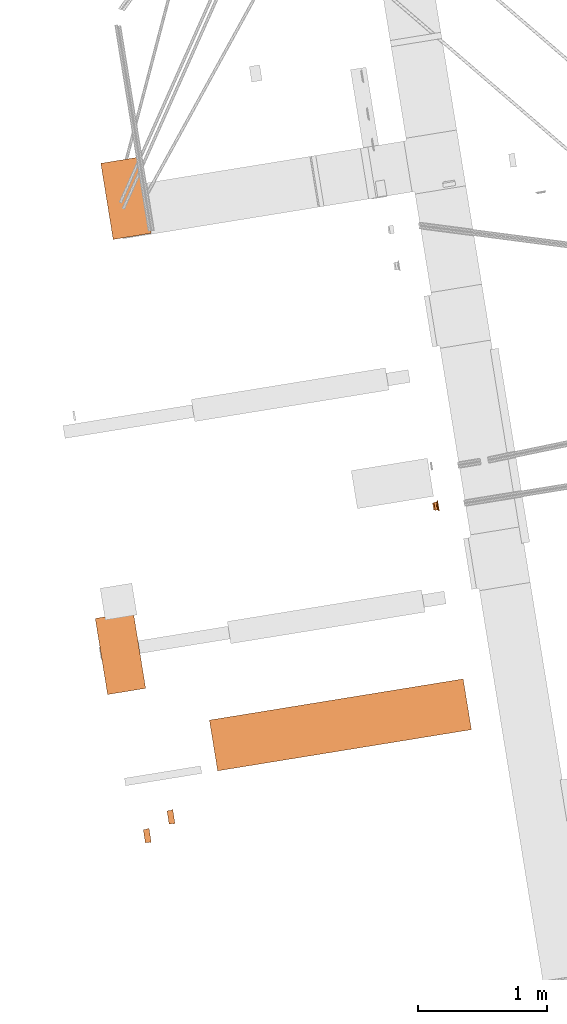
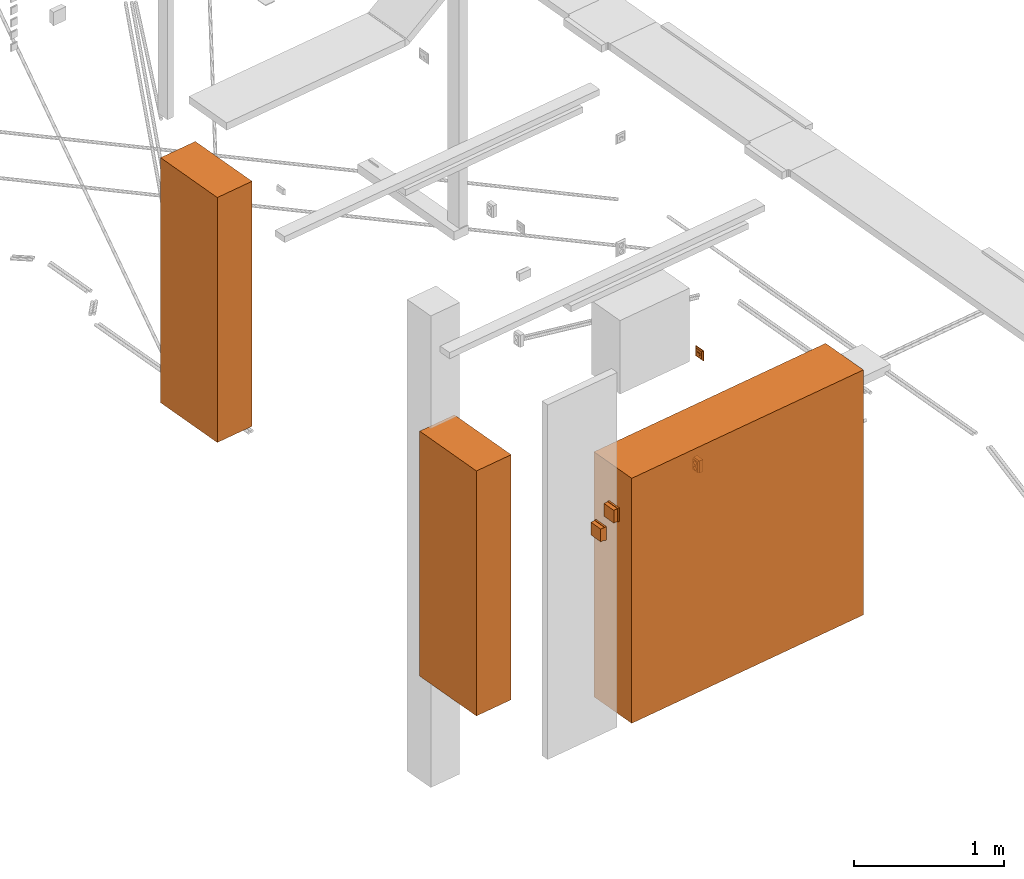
# One storey, part 9 of 33: 7 proxies.
"""IFC2X3 building model written with IfcOpenShell, lengths in millimetres."""

from ifc_helpers import new_model, entity, si_unit, converted_unit, derived_unit, direction, frame, frame_2d, origin, origin_with_axes, origin_2d_with_axis, place, context, subcontext, project, spatial, polyline, circle_curve, parameter, trimmed, segment, composite_curve, rectangle, circle, hollow_circle, outline, extrude, source, transform, mapped, material, type_object, element, save


model = new_model("IFC2X3")

# Units and contexts
plan_context = context("Plan", 3, precision=1e-05, world=origin_with_axes())
model_context = context("Model", 3, precision=0.01, world=origin(), true_north=direction((6.12323399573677e-17, 1.0)))
body_context = subcontext(model_context, "Body", "Model", "MODEL_VIEW")
ifc_project = project(units=[converted_unit("PLANEANGLEUNIT", "DEGREE", entity("IfcPositiveLengthMeasure", 0.0174532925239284), si_unit("PLANEANGLEUNIT", "RADIAN"), dimensions=[0, 0, 0, 0, 0, 0, 0]), si_unit("AREAUNIT", "SQUARE_METRE"), si_unit("LENGTHUNIT", "METRE", prefix="MILLI"), si_unit("MASSUNIT", "GRAM", prefix="KILO"), si_unit("POWERUNIT", "WATT"), si_unit("PRESSUREUNIT", "PASCAL", prefix="KILO"), si_unit("FORCEUNIT", "NEWTON", prefix="KILO"), si_unit("ELECTRICVOLTAGEUNIT", "VOLT"), si_unit("ELECTRICCURRENTUNIT", "AMPERE"), si_unit("THERMODYNAMICTEMPERATUREUNIT", "DEGREE_CELSIUS"), si_unit("TIMEUNIT", "SECOND"), si_unit("VOLUMEUNIT", "CUBIC_METRE"), derived_unit("LINEARVELOCITYUNIT", [(si_unit("LENGTHUNIT", "METRE"), 1), (si_unit("TIMEUNIT", "SECOND"), -1)]), derived_unit("VOLUMETRICFLOWRATEUNIT", [(si_unit("VOLUMEUNIT", "CUBIC_METRE"), 1), (si_unit("TIMEUNIT", "SECOND"), -1)]), derived_unit("THERMALTRANSMITTANCEUNIT", [(si_unit("POWERUNIT", "WATT"), 1), (si_unit("THERMODYNAMICTEMPERATUREUNIT", "KELVIN"), -1), (si_unit("AREAUNIT", "SQUARE_METRE"), -1)]), derived_unit("SOUNDPRESSUREUNIT", [(si_unit("PRESSUREUNIT", "PASCAL"), 1)])], contexts=[model_context, plan_context])

# Site, building, storey
site_placement = place(None, frame((-0.219946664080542, 0.12226179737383, 0.0), z_axis=(0.0, 0.0, 1.0), x_axis=(-0.160236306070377, 0.987078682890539, 0.0)))
site = spatial("IfcSite", under=ifc_project, at=site_placement, Name="Default", CompositionType="ELEMENT")
building_placement = place(site_placement, origin_with_axes())
building = spatial("IfcBuilding", under=site, at=building_placement, CompositionType="ELEMENT")
storey_placement = place(building_placement, frame((0.0, 0.0, 59000.0), z_axis=(0.0, 0.0, 1.0), x_axis=(1.0, 0.0, 0.0)))
storey = spatial("IfcBuildingStorey", under=building, at=storey_placement, Name="Nivå F", CompositionType="ELEMENT", Elevation=59000.0)

# Proxies
ifc_material = material(Name="<Unnamed>")
building_element_proxy_type_1 = type_object("IfcBuildingElementProxyType", Name="El-ford-Skap:El-ford-Skap_001", PredefinedType="NOTDEFINED", material=ifc_material)
shared_shape_1 = source(origin(), body_context, "Body", "SweptSolid", [
    extrude(rectangle(XDim=400.0, YDim=2000.0, at=origin_2d_with_axis()), frame((0.0, 200.0, 0.0), z_axis=(0.0, 0.0, 1.0), x_axis=(0.0, 1.0, 0.0)), (0.0, 0.0, 1.0), 2000.0),
])
proxy_1_placement = place(storey_placement, frame((767204.369644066, -502802.476367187, -70.0000000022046), z_axis=(0.0, 0.0, 1.0), x_axis=(0.0, 1.0, 0.0)))
element("IfcBuildingElementProxy", 1, at=proxy_1_placement, inside=storey, type_object=building_element_proxy_type_1, material=ifc_material, Name="El-ford-Skap:=433.PF111", ObjectType="El-ford-Skap:El-ford-Skap_001", context=body_context, shape_type="MappedRepresentation", body=[
    mapped(shared_shape_1, transform((0.0, 0.0, 0.0), scale=1.0)),
])
building_element_proxy_type_2 = type_object("IfcBuildingElementProxyType", Name="El-ford-stativ:El-ford-stativ_001", PredefinedType="NOTDEFINED", material=ifc_material)
shared_shape_2 = source(origin(), body_context, "Body", "SweptSolid", [
    extrude(rectangle(XDim=300.000011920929, YDim=600.000023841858, at=origin_2d_with_axis()), frame((0.0, 150.000005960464, 0.0), z_axis=(0.0, 0.0, 1.0), x_axis=(0.0, 1.0, 0.0)), (0.0, 0.0, 1.0), 2000.0),
])
proxy_2_placement = place(storey_placement, frame((767827.625402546, -501352.46749239, -70.0000000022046), z_axis=(0.0, 0.0, 1.0), x_axis=(1.0, 0.0, 0.0)))
element("IfcBuildingElementProxy", 2, at=proxy_2_placement, inside=storey, type_object=building_element_proxy_type_2, material=ifc_material, Name="El-ford-stativ:El-ford-stativ_001", ObjectType="El-ford-stativ:El-ford-stativ_001", context=body_context, shape_type="MappedRepresentation", body=[
    mapped(shared_shape_2, transform((0.0, 0.0, 0.0), scale=1.0)),
])
building_element_proxy_type_3 = type_object("IfcBuildingElementProxyType", Name="Dobbel stikk på vegg 2P+J vert PH:EARTHED-SOCKET-2(VER)", PredefinedType="NOTDEFINED", material=ifc_material)
shared_shape_3 = source(origin(), body_context, "Body", "SweptSolid", [
    extrude(outline(composite_curve([segment(polyline([(-6.66666666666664, -6.66666666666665), (13.3333333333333, -6.66666666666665)]), True, "CONTINUOUS"), segment(trimmed(circle_curve(frame_2d((13.3333333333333, 13.3333333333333), x_axis=(-1.0, 0.0)), 20.0), [parameter(360.0)], [parameter(90.0)], True, "PARAMETER"), False, "CONTINUOUS"), segment(polyline([(-6.66666666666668, 13.3333333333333), (-6.66666666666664, -6.66666666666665)]), True, "CONTINUOUS")], self_intersect=False)), frame((13.3333333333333, 42.8999999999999, 8.65666666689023), z_axis=(0.0, 1.0, 0.0), x_axis=(-1.0, 0.0, 0.0)), (0.0, 0.0, 1.0), 0.199999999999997),
    extrude(outline(composite_curve([segment(polyline([(-6.66666666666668, -6.66666666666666), (13.3333333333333, -6.66666666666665)]), True, "CONTINUOUS"), segment(trimmed(circle_curve(frame_2d((13.3333333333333, 13.3333333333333), x_axis=(0.0, -1.0)), 20.0), [parameter(270.0)], [parameter(0.0)], True, "PARAMETER"), False, "CONTINUOUS"), segment(polyline([(-6.66666666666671, 13.3333333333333), (-6.66666666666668, -6.66666666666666)]), True, "CONTINUOUS")], self_intersect=False)), frame((13.3333333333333, 42.8999999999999, 35.3333333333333), z_axis=(0.0, 1.0, 0.0), x_axis=(0.0, 0.0, -1.0)), (0.0, 0.0, 1.0), 0.199999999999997),
    extrude(outline(composite_curve([segment(polyline([(-6.66666666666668, -6.66666666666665), (13.3333333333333, -6.66666666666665)]), True, "CONTINUOUS"), segment(trimmed(circle_curve(frame_2d((13.3333333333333, 13.3333333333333), x_axis=(-1.0, 0.0)), 20.0), [parameter(0.0)], [parameter(90.0)], True, "PARAMETER"), False, "CONTINUOUS"), segment(polyline([(-6.66666666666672, 13.3333333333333), (-6.66666666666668, -6.66666666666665)]), True, "CONTINUOUS")], self_intersect=False)), frame((-13.3333333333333, 42.8999999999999, 35.3433333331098), z_axis=(0.0, 1.0, 0.0), x_axis=(1.0, 0.0, 0.0)), (0.0, 0.0, 1.0), 0.199999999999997),
    extrude(outline(composite_curve([segment(polyline([(-6.66666666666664, -6.66666666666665), (13.3333333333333, -6.66666666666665)]), True, "CONTINUOUS"), segment(trimmed(circle_curve(frame_2d((13.3333333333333, 13.3333333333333), x_axis=(0.0, -1.0)), 20.0), [parameter(270.0)], [parameter(0.0)], True, "PARAMETER"), False, "CONTINUOUS"), segment(polyline([(-6.66666666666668, 13.3333333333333), (-6.66666666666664, -6.66666666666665)]), True, "CONTINUOUS")], self_intersect=False)), frame((-13.3333333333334, 42.8999999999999, 8.66666666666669), z_axis=(0.0, 1.0, 0.0), x_axis=(0.0, 0.0, 1.0)), (0.0, 0.0, 1.0), 0.199999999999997),
    extrude(outline(composite_curve([segment(polyline([(-6.66666666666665, -6.66666666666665), (13.3333333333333, -6.66666666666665)]), True, "CONTINUOUS"), segment(trimmed(circle_curve(frame_2d((13.3333333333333, 13.3333333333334), x_axis=(-1.0, 0.0)), 20.0), [parameter(360.0)], [parameter(90.0)], True, "PARAMETER"), False, "CONTINUOUS"), segment(polyline([(-6.66666666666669, 13.3333333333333), (-6.66666666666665, -6.66666666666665)]), True, "CONTINUOUS")], self_intersect=False)), frame((13.3333333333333, 42.8999999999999, -35.3433333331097), z_axis=(0.0, 1.0, 0.0), x_axis=(-1.0, 0.0, 0.0)), (0.0, 0.0, 1.0), 0.199999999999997),
    extrude(outline(composite_curve([segment(polyline([(-6.66666666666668, -6.66666666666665), (13.3333333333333, -6.66666666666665)]), True, "CONTINUOUS"), segment(trimmed(circle_curve(frame_2d((13.3333333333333, 13.3333333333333), x_axis=(0.0, -1.0)), 20.0), [parameter(270.0)], [parameter(0.0)], True, "PARAMETER"), False, "CONTINUOUS"), segment(polyline([(-6.66666666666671, 13.3333333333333), (-6.66666666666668, -6.66666666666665)]), True, "CONTINUOUS")], self_intersect=False)), frame((13.3333333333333, 42.8999999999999, -8.66666666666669), z_axis=(0.0, 1.0, 0.0), x_axis=(0.0, 0.0, -1.0)), (0.0, 0.0, 1.0), 0.199999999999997),
    extrude(outline(composite_curve([segment(polyline([(-6.66666666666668, -6.66666666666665), (13.3333333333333, -6.66666666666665)]), True, "CONTINUOUS"), segment(trimmed(circle_curve(frame_2d((13.3333333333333, 13.3333333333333), x_axis=(-1.0, 0.0)), 20.0), [parameter(0.0)], [parameter(90.0)], True, "PARAMETER"), False, "CONTINUOUS"), segment(polyline([(-6.66666666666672, 13.3333333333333), (-6.66666666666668, -6.66666666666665)]), True, "CONTINUOUS")], self_intersect=False)), frame((-13.3333333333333, 42.8999999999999, -8.65666666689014), z_axis=(0.0, 1.0, 0.0), x_axis=(1.0, 0.0, 0.0)), (0.0, 0.0, 1.0), 0.199999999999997),
    extrude(outline(composite_curve([segment(polyline([(-6.66666666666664, -6.66666666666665), (13.3333333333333, -6.66666666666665)]), True, "CONTINUOUS"), segment(trimmed(circle_curve(frame_2d((13.3333333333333, 13.3333333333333), x_axis=(0.0, -1.0)), 20.0), [parameter(270.0)], [parameter(0.0)], True, "PARAMETER"), False, "CONTINUOUS"), segment(polyline([(-6.66666666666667, 13.3333333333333), (-6.66666666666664, -6.66666666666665)]), True, "CONTINUOUS")], self_intersect=False)), frame((-13.3333333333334, 42.8999999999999, -35.3333333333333), z_axis=(0.0, 1.0, 0.0), x_axis=(0.0, 0.0, 1.0)), (0.0, 0.0, 1.0), 0.199999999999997),
    extrude(rectangle(XDim=9.99999999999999, YDim=0.999999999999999, at=frame_2d((0.0, 1.11022302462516e-15), x_axis=(1.0, 0.0))), frame((0.0, 40.0, 4.4), z_axis=(0.0, 0.0, 1.0), x_axis=(0.0, -1.0, 0.0)), (0.0, 0.0, 1.0), 0.2),
    extrude(rectangle(XDim=21.5, YDim=0.999999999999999, at=frame_2d((0.0, 7.32747196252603e-15), x_axis=(1.0, 0.0))), frame((0.0, 32.25, 2.4), z_axis=(0.0, 0.0, 1.0), x_axis=(0.0, -1.0, 0.0)), (0.0, 0.0, 1.0), 0.2),
    extrude(rectangle(XDim=9.99999999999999, YDim=0.999999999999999, at=frame_2d((0.0, 1.11022302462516e-15), x_axis=(1.0, 0.0))), frame((0.0, 40.0, 39.4), z_axis=(0.0, 0.0, 1.0), x_axis=(0.0, -1.0, 0.0)), (0.0, 0.0, 1.0), 0.199999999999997),
    extrude(rectangle(XDim=21.5, YDim=0.999999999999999, at=frame_2d((0.0, 7.32747196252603e-15), x_axis=(1.0, 0.0))), frame((0.0, 32.25, 41.4), z_axis=(0.0, 0.0, 1.0), x_axis=(0.0, -1.0, 0.0)), (0.0, 0.0, 1.0), 0.199999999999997),
    extrude(rectangle(XDim=9.99999999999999, YDim=0.999999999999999, at=frame_2d((0.0, 1.11022302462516e-15), x_axis=(1.0, 0.0))), frame((0.0, 40.0, -39.6), z_axis=(0.0, 0.0, 1.0), x_axis=(0.0, -1.0, 0.0)), (0.0, 0.0, 1.0), 0.199999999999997),
    extrude(rectangle(XDim=21.5, YDim=0.999999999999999, at=frame_2d((0.0, 7.32747196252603e-15), x_axis=(1.0, 0.0))), frame((0.0, 32.25, -41.6), z_axis=(0.0, 0.0, 1.0), x_axis=(0.0, -1.0, 0.0)), (0.0, 0.0, 1.0), 0.199999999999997),
    extrude(rectangle(XDim=9.99999999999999, YDim=0.999999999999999, at=frame_2d((0.0, 1.11022302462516e-15), x_axis=(1.0, 0.0))), frame((0.0, 40.0, -4.59999999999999), z_axis=(0.0, 0.0, 1.0), x_axis=(0.0, -1.0, 0.0)), (0.0, 0.0, 1.0), 0.2),
    extrude(rectangle(XDim=21.5, YDim=0.999999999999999, at=frame_2d((0.0, 7.32747196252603e-15), x_axis=(1.0, 0.0))), frame((0.0, 32.25, -2.6), z_axis=(0.0, 0.0, 1.0), x_axis=(0.0, -1.0, 0.0)), (0.0, 0.0, 1.0), 0.2),
    extrude(rectangle(XDim=0.199999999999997, YDim=40.0, at=frame_2d((4.2257863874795e-15, 1.77635683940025e-15), x_axis=(1.0, 0.0))), frame((0.0, 43.0, 42.0), z_axis=(0.0, 0.0, 1.0), x_axis=(0.0, 1.0, 0.0)), (0.0, 0.0, 1.0), 1.99999999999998),
    extrude(rectangle(XDim=0.199999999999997, YDim=40.0, at=frame_2d((4.2257863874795e-15, 1.77635683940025e-15), x_axis=(1.0, 0.0))), frame((0.0, 43.0, 0.0), z_axis=(0.0, 0.0, 1.0), x_axis=(0.0, 1.0, 0.0)), (0.0, 0.0, 1.0), 1.99999999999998),
    extrude(rectangle(XDim=0.199999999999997, YDim=40.0, at=frame_2d((4.2257863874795e-15, 1.77635683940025e-15), x_axis=(1.0, 0.0))), frame((0.0, 43.0, -2.0), z_axis=(0.0, 0.0, 1.0), x_axis=(0.0, 1.0, 0.0)), (0.0, 0.0, 1.0), 1.99999999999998),
    extrude(rectangle(XDim=0.199999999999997, YDim=40.0, at=frame_2d((4.2257863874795e-15, 1.77635683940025e-15), x_axis=(1.0, 0.0))), frame((0.0, 43.0, -44.0), z_axis=(0.0, 0.0, 1.0), x_axis=(0.0, 1.0, 0.0)), (0.0, 0.0, 1.0), 1.99999999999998),
    extrude(rectangle(XDim=0.199999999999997, YDim=5.75, at=frame_2d((4.2257863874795e-15, 0.0), x_axis=(1.0, 0.0))), frame((-22.875, 43.0, -44.0), z_axis=(0.0, 0.0, 1.0), x_axis=(0.0, 1.0, 0.0)), (0.0, 0.0, 1.0), 87.9999999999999),
    extrude(outline(polyline([(-18.9908791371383, -25.8475629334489), (-5.60945544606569, -25.8475629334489), (16.5201031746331, 20.6554760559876), (8.0802314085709, 31.0396498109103), (-18.9908791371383, -25.8475629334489)])), frame((0.0, 37.5413802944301, -46.5910366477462), z_axis=(0.0, -0.413802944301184, 0.910366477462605), x_axis=(-0.42970016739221, 0.822035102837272, 0.373652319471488)), (0.0, 0.0, 1.0), 0.200000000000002),
    extrude(outline(polyline([(-25.75, -6.04152298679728), (25.75, -6.04152298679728), (31.5, 6.04152298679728), (-31.5, 6.04152298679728), (-25.75, -6.04152298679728)])), frame((0.0, 37.4586197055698, 46.4089633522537), z_axis=(0.0, 0.413802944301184, 0.910366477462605), x_axis=(-1.0, 0.0, 0.0)), (0.0, 0.0, 1.0), 0.200000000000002),
    extrude(rectangle(XDim=0.199999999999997, YDim=5.75, at=frame_2d((4.2257863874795e-15, 0.0), x_axis=(1.0, 0.0))), frame((22.875, 43.0, -44.0), z_axis=(0.0, 0.0, 1.0), x_axis=(0.0, 1.0, 0.0)), (0.0, 0.0, 1.0), 87.9999999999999),
    extrude(rectangle(XDim=32.0, YDim=62.9999999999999, at=frame_2d((1.77635683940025e-15, 0.0), x_axis=(1.0, 0.0))), frame((0.0, 16.0, 48.8999999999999), z_axis=(0.0, 0.0, 1.0), x_axis=(0.0, -1.0, 0.0)), (0.0, 0.0, 1.0), 0.199999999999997),
    extrude(outline(polyline([(-49.0, -6.2060957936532), (49.0, -6.2060957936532), (44.0, 6.20609579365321), (-44.0, 6.20609579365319), (-49.0, -6.2060957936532)])), frame((-28.7136225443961, 37.5463254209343, 0.0), z_axis=(0.886225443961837, -0.463254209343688, 0.0), x_axis=(0.0, 0.0, -1.0)), (0.0, 0.0, 1.0), 0.199999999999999),
    extrude(outline(polyline([(-49.0, -6.2060957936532), (49.0, -6.20609579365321), (44.0, 6.20609579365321), (-44.0, 6.20609579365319), (-49.0, -6.2060957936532)])), frame((28.5363774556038, 37.4536745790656, 0.0), z_axis=(0.886225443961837, 0.463254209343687, 0.0), x_axis=(0.0, 0.0, -1.0)), (0.0, 0.0, 1.0), 0.199999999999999),
    extrude(rectangle(XDim=32.0, YDim=62.9999999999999, at=frame_2d((1.77635683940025e-15, 0.0), x_axis=(1.0, 0.0))), frame((0.0, 16.0, -49.0999999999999), z_axis=(0.0, 0.0, 1.0), x_axis=(0.0, -1.0, 0.0)), (0.0, 0.0, 1.0), 0.199999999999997),
    extrude(rectangle(XDim=0.200000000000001, YDim=32.0, at=frame_2d((2.11636264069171e-15, 0.0), x_axis=(1.0, 0.0))), frame((31.5, 16.0, -49.0)), (0.0, 0.0, 1.0), 97.9999999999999),
    extrude(rectangle(XDim=0.200000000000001, YDim=32.0, at=frame_2d((2.11636264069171e-15, 0.0), x_axis=(1.0, 0.0))), frame((-31.5, 16.0, -49.0)), (0.0, 0.0, 1.0), 97.9999999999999),
    extrude(rectangle(XDim=0.2, YDim=62.9999999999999, at=origin_2d_with_axis()), frame((0.0, 0.0, -49.0), z_axis=(0.0, 0.0, 1.0), x_axis=(0.0, 1.0, 0.0)), (0.0, 0.0, 1.0), 97.9999999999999),
    extrude(circle(Radius=2.5, at=frame_2d((0.0, -4.22994972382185e-15), x_axis=(1.0, 0.0))), frame((10.0, 21.450000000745, 22.0), z_axis=(0.0, 1.0, 0.0), x_axis=(0.0, 0.0, 1.0)), (0.0, 0.0, 1.0), 0.200000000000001),
    extrude(circle(Radius=2.5, at=frame_2d((0.0, -4.22994972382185e-15), x_axis=(1.0, 0.0))), frame((-10.0, 21.450000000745, 22.0), z_axis=(0.0, 1.0, 0.0), x_axis=(0.0, 0.0, 1.0)), (0.0, 0.0, 1.0), 0.200000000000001),
    extrude(circle(Radius=2.5, at=frame_2d((0.0, -4.22994972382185e-15), x_axis=(1.0, 0.0))), frame((10.0, 21.450000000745, -22.0), z_axis=(0.0, 1.0, 0.0), x_axis=(0.0, 0.0, 1.0)), (0.0, 0.0, 1.0), 0.200000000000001),
    extrude(circle(Radius=2.5, at=frame_2d((0.0, -4.22994972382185e-15), x_axis=(1.0, 0.0))), frame((-10.0, 21.450000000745, -22.0), z_axis=(0.0, 1.0, 0.0), x_axis=(0.0, 0.0, 1.0)), (0.0, 0.0, 1.0), 0.200000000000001),
    extrude(circle(Radius=20.0, at=frame_2d((-4.22994972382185e-15, -3.23108914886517e-14), x_axis=(1.0, 0.0))), frame((0.0, 21.4, 22.0), z_axis=(0.0, 1.0, 0.0), x_axis=(0.0, 0.0, 1.0)), (0.0, 0.0, 1.0), 0.200000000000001),
    extrude(circle(Radius=20.0, at=frame_2d((4.22994972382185e-15, -3.23108914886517e-14), x_axis=(1.0, 0.0))), frame((0.0, 21.4, -22.0), z_axis=(0.0, 1.0, 0.0), x_axis=(0.0, 0.0, 1.0)), (0.0, 0.0, 1.0), 0.200000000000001),
    extrude(outline(composite_curve([segment(trimmed(circle_curve(frame_2d((-0.800000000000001, 0.799999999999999), x_axis=(1.0, 0.0)), 2.0), [parameter(270.0)], [parameter(0.0)], True, "PARAMETER"), True, "CONTINUOUS"), segment(polyline([(1.20000000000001, 0.799999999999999), (0.400000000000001, 0.799999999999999)]), True, "CONTINUOUS"), segment(trimmed(circle_curve(frame_2d((-0.800000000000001, 0.799999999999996), x_axis=(0.0, -1.0)), 1.2), [parameter(0.0)], [parameter(89.9999999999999)], True, "PARAMETER"), False, "CONTINUOUS"), segment(polyline([(-0.799999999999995, -0.400000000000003), (-0.799999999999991, -1.2)]), True, "CONTINUOUS")], self_intersect=False)), frame((-1.5, 43.7999999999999, 3.7), z_axis=(1.0, 0.0, 0.0), x_axis=(0.0, 1.0, 0.0)), (0.0, 0.0, 1.0), 2.0),
    extrude(outline(composite_curve([segment(polyline([(-1.2, -0.800000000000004), (-0.400000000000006, -0.800000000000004)]), True, "CONTINUOUS"), segment(trimmed(circle_curve(frame_2d((0.799999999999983, -0.799999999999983), x_axis=(-1.0, 0.0)), 1.19999999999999), [parameter(269.999999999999)], [parameter(0.0)], True, "PARAMETER"), False, "CONTINUOUS"), segment(polyline([(0.799999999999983, 0.400000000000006), (0.799999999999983, 1.2)]), True, "CONTINUOUS"), segment(trimmed(circle_curve(frame_2d((0.79999999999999, -0.79999999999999), x_axis=(0.0, 1.0)), 1.99999999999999), [parameter(0.0)], [parameter(90.0000000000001)], True, "PARAMETER"), True, "CONTINUOUS")], self_intersect=False)), frame((-0.5, 43.8, 40.2999999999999), z_axis=(1.0, 0.0, 0.0), x_axis=(0.0, 0.0, -1.0)), (0.0, 0.0, 1.0), 2.0),
    extrude(outline(composite_curve([segment(trimmed(circle_curve(frame_2d((-0.799999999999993, 0.800000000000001), x_axis=(1.0, 0.0)), 1.99999999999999), [parameter(270.0)], [parameter(0.0)], True, "PARAMETER"), True, "CONTINUOUS"), segment(polyline([(1.2, 0.800000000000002), (0.400000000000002, 0.799999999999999)]), True, "CONTINUOUS"), segment(trimmed(circle_curve(frame_2d((-0.799999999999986, 0.799999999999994), x_axis=(0.0, -1.0)), 1.19999999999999), [parameter(0.0)], [parameter(90.0000000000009)], True, "PARAMETER"), False, "CONTINUOUS"), segment(polyline([(-0.800000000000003, -0.399999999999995), (-0.799999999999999, -1.19999999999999)]), True, "CONTINUOUS")], self_intersect=False)), frame((-1.5, 43.8, -40.3), z_axis=(1.0, 0.0, 0.0), x_axis=(0.0, 1.0, 0.0)), (0.0, 0.0, 1.0), 2.0),
    extrude(outline(composite_curve([segment(polyline([(-1.2, -0.800000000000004), (-0.399999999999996, -0.800000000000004)]), True, "CONTINUOUS"), segment(trimmed(circle_curve(frame_2d((0.800000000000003, -0.800000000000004), x_axis=(-1.0, 0.0)), 1.2), [parameter(270.0)], [parameter(0.0)], True, "PARAMETER"), False, "CONTINUOUS"), segment(polyline([(0.799999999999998, 0.399999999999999), (0.799999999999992, 1.2)]), True, "CONTINUOUS"), segment(trimmed(circle_curve(frame_2d((0.800000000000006, -0.800000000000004), x_axis=(0.0, 1.0)), 2.0), [parameter(0.0)], [parameter(89.9999999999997)], True, "PARAMETER"), True, "CONTINUOUS")], self_intersect=False)), frame((-0.5, 43.8, -3.7), z_axis=(1.0, 0.0, 0.0), x_axis=(0.0, 0.0, -1.0)), (0.0, 0.0, 1.0), 2.0),
    extrude(hollow_circle(Radius=20.0, WallThickness=0.199999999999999, at=frame_2d((-4.22994972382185e-15, -3.23108914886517e-14), x_axis=(1.0, 0.0))), frame((0.0, 21.5, 22.0), z_axis=(0.0, 1.0, 0.0), x_axis=(0.0, 0.0, 1.0)), (0.0, 0.0, 1.0), 21.5),
    extrude(hollow_circle(Radius=20.0, WallThickness=0.199999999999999, at=frame_2d((4.22994972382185e-15, -3.23108914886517e-14), x_axis=(1.0, 0.0))), frame((0.0, 21.5, -22.0), z_axis=(0.0, 1.0, 0.0), x_axis=(0.0, 0.0, 1.0)), (0.0, 0.0, 1.0), 21.5),
])
proxy_3_placement = place(storey_placement, frame((768565.119644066, -503829.629552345, 200.0), z_axis=(0.0, 0.0, 1.0), x_axis=(1.0, 0.0, 0.0)))
element("IfcBuildingElementProxy", 3, at=proxy_3_placement, inside=storey, type_object=building_element_proxy_type_3, material=ifc_material, Name="Dobbel stikk på vegg 2P+J vert PH:EARTHED-SOCKET-2(VER)", ObjectType="Dobbel stikk på vegg 2P+J vert PH:EARTHED-SOCKET-2(VER)", context=body_context, shape_type="MappedRepresentation", body=[
    mapped(shared_shape_3, transform((0.0, 0.0, 0.0), scale=1.0)),
])
building_element_proxy_type_4 = type_object("IfcBuildingElementProxyType", Name="Move-detector-2-0002:MOVE-DETECTOR-2", PredefinedType="NOTDEFINED", material=ifc_material)
shared_shape_4 = source(origin(), body_context, "Body", "SweptSolid", [
    extrude(outline(polyline([(-31.1151497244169, -27.3285099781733), (-15.7528582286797, -27.3285099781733), (24.6057041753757, 19.7372572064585), (22.2623037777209, 34.9197627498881), (-31.1151497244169, -27.3285099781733)])), frame((35.9485504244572, 7.91425070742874, 0.0), z_axis=(0.514495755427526, 0.857492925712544, 0.0), x_axis=(-0.650944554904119, 0.390566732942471, 0.650944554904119)), (0.0, 0.0, 1.0), 0.200000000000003),
    extrude(outline(polyline([(-41.0, -5.8309518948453), (41.0, -5.8309518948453), (31.0, 5.8309518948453), (-31.0, 5.8309518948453), (-41.0, -5.8309518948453)])), frame((-35.9485504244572, 7.91425070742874, 0.0), z_axis=(-0.514495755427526, 0.857492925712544, 0.0), x_axis=(0.0, 0.0, 1.0)), (0.0, 0.0, 1.0), 0.2),
    extrude(outline(polyline([(15.7528582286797, -27.3285099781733), (31.1151497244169, -27.3285099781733), (-22.2623037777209, 34.9197627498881), (-24.6057041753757, 19.7372572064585), (15.7528582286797, -27.3285099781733)])), frame((0.0, 7.91425070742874, -35.9485504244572), z_axis=(0.0, 0.857492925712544, -0.514495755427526), x_axis=(0.650944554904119, -0.390566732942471, -0.65094455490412)), (0.0, 0.0, 1.0), 0.200000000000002),
    extrude(outline(polyline([(-31.0, -5.8309518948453), (31.0, -5.83095189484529), (41.0, 5.83095189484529), (-41.0, 5.8309518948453), (-31.0, -5.8309518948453)])), frame((0.0, 7.91425070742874, 35.9485504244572), z_axis=(0.0, 0.857492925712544, 0.514495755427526), x_axis=(-1.0, 0.0, 0.0)), (0.0, 0.0, 1.0), 0.199999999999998),
    extrude(rectangle(XDim=0.200000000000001, YDim=61.9999999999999, at=origin_2d_with_axis()), frame((0.0, 11.0, -31.0), z_axis=(0.0, 0.0, 1.0), x_axis=(0.0, 1.0, 0.0)), (0.0, 0.0, 1.0), 61.9999999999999),
    extrude(outline(composite_curve([segment(trimmed(circle_curve(frame_2d((-9.79999999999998, 9.79999999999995), x_axis=(1.0, 0.0)), 20.0), [parameter(270.0)], [parameter(0.0)], True, "PARAMETER"), True, "CONTINUOUS"), segment(polyline([(10.2, 9.79999999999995), (9.39999999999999, 9.79999999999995)]), True, "CONTINUOUS"), segment(trimmed(circle_curve(frame_2d((-9.79999999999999, 9.79999999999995), x_axis=(0.0, -1.0)), 19.2), [parameter(0.0)], [parameter(90.0000000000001)], True, "PARAMETER"), False, "CONTINUOUS"), segment(polyline([(-9.79999999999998, -9.40000000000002), (-9.79999999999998, -10.2)]), True, "CONTINUOUS")], self_intersect=False)), frame((0.0, 10.8592929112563, -10.0), z_axis=(0.0, 0.0, 1.0), x_axis=(-0.707106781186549, 0.707106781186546, 0.0)), (0.0, 0.0, 1.0), 20.0),
    extrude(outline(composite_curve([segment(trimmed(circle_curve(frame_2d((-10.0, 10.0), x_axis=(1.0, 0.0)), 20.0), [parameter(270.0)], [parameter(0.0)], True, "PARAMETER"), True, "CONTINUOUS"), segment(polyline([(10.0, 10.0), (-10.0, -10.0)]), True, "CONTINUOUS")], self_intersect=False)), frame((0.0, 11.1421356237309, -10.1), z_axis=(0.0, 0.0, 1.0), x_axis=(-0.707106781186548, 0.707106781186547, 0.0)), (0.0, 0.0, 1.0), 0.199999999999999),
    extrude(outline(composite_curve([segment(trimmed(circle_curve(frame_2d((-10.0, 10.0), x_axis=(1.0, 0.0)), 20.0), [parameter(270.0)], [parameter(0.0)], True, "PARAMETER"), True, "CONTINUOUS"), segment(polyline([(10.0, 10.0), (-10.0, -10.0)]), True, "CONTINUOUS")], self_intersect=False)), frame((0.0, 11.1421356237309, 9.89999999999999), z_axis=(0.0, 0.0, 1.0), x_axis=(-0.707106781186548, 0.707106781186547, 0.0)), (0.0, 0.0, 1.0), 0.199999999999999),
    extrude(rectangle(XDim=81.9999999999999, YDim=4.99999999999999, at=origin_2d_with_axis()), frame((0.0, 2.5, -41.0)), (0.0, 0.0, 1.0), 81.9999999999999),
])
proxy_4_placement = place(storey_placement, frame((768565.119644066, -503829.729552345, 1100.0), z_axis=(0.0, 0.0, 1.0), x_axis=(1.0, 0.0, 0.0)))
element("IfcBuildingElementProxy", 4, at=proxy_4_placement, inside=storey, type_object=building_element_proxy_type_4, material=ifc_material, Name="Move-detector-2-0002:MOVE-DETECTOR-2", ObjectType="Move-detector-2-0002:MOVE-DETECTOR-2", context=body_context, shape_type="MappedRepresentation", body=[
    mapped(shared_shape_4, transform((0.0, 0.0, 0.0), scale=1.0)),
])
building_element_proxy_type_5 = type_object("IfcBuildingElementProxyType", Name="El-ford-Skap:El-ford-Skap_001", PredefinedType="NOTDEFINED", material=ifc_material)
shared_shape_5 = source(origin(), body_context, "Body", "SweptSolid", [
    extrude(rectangle(XDim=300.0, YDim=600.0, at=origin_2d_with_axis()), frame((0.0, 150.0, 0.0), z_axis=(0.0, 0.0, 1.0), x_axis=(0.0, 1.0, 0.0)), (0.0, 0.0, 1.0), 2000.0),
])
proxy_5_placement = place(storey_placement, frame((771315.369644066, -501962.480498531, 0.0), z_axis=(0.0, 0.0, 1.0), x_axis=(1.0, 0.0, 0.0)))
element("IfcBuildingElementProxy", 5, at=proxy_5_placement, inside=storey, type_object=building_element_proxy_type_5, material=ifc_material, Name="El-ford-Skap:=435.PF111", ObjectType="El-ford-Skap:El-ford-Skap_001", context=body_context, shape_type="MappedRepresentation", body=[
    mapped(shared_shape_5, transform((0.0, 0.0, 0.0), scale=1.0)),
])
building_element_proxy_type_6 = type_object("IfcBuildingElementProxyType", Name="1612510-0001:Junction box1", PredefinedType="NOTDEFINED", material=ifc_material)
shared_shape_6 = source(origin(), body_context, "Body", "SweptSolid", [
    extrude(rectangle(XDim=110.0, YDim=13.8000001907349, at=frame_2d((0.0, 2.22044604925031e-15), x_axis=(1.0, 0.0))), frame((0.0, 39.1000008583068, -55.0)), (0.0, 0.0, 1.0), 110.0),
    extrude(rectangle(XDim=104.0, YDim=32.2000007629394, at=origin_2d_with_axis()), frame((0.0, 16.1000003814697, -52.0)), (0.0, 0.0, 1.0), 104.0),
])
for number, where, z_axis, x_axis, name in (
    (6, (766507.938532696, -501363.493744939, 2000.0), (0.0, 0.0, 1.0), (-0.999975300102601, 0.00702845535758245, 0.0), "1612510-0001:Junction box1"),
    (7, (766393.738159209, -501157.642662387, 2000.0), (0.0, 0.0, 1.0), (-0.999975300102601, 0.00702845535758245, 0.0), "1612510-0001:Junction box1"),
):
    element("IfcBuildingElementProxy", number, at=place(storey_placement, frame(where, z_axis=z_axis, x_axis=x_axis)), inside=storey, type_object=building_element_proxy_type_6, material=ifc_material, Name=name, ObjectType="1612510-0001:Junction box1", context=body_context, shape_type="MappedRepresentation", body=[
        mapped(shared_shape_6, transform((0.0, 0.0, 0.0), scale=1.0)),
    ])

save(model, "model.ifc")
